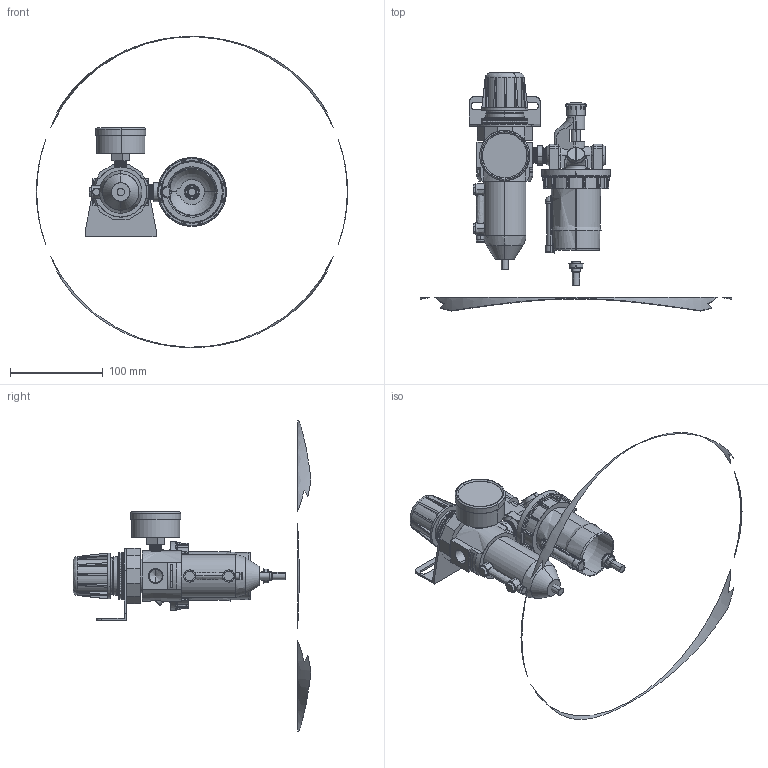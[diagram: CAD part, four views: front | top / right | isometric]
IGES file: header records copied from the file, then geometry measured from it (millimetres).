
Start section: SolidWorks IGES file using analytic representation for surfaces
Global section: file name: C:\Users\Toshiba\Desktop\U658W-03#YB#.IGS; native system: SolidWorks 2014; preprocessor: SolidWorks 2014; author: Toshiba; date: 160216.150510; units: millimetre
Bounding box: 335.27 x 256.25 x 335.15 mm (x, y, z)
Surface area: 131813.7 mm2 (no closed solid volume)
Topology: 0 solids, 0 shells, 1219 faces, 14127 edges, 14114 vertices
Faces by surface type: bspline 821, revolution 398
